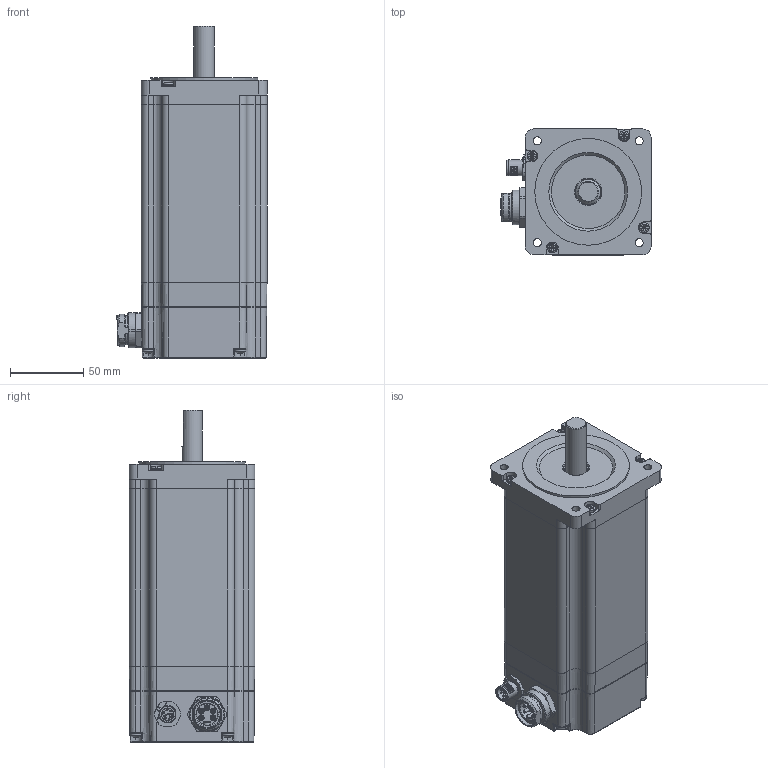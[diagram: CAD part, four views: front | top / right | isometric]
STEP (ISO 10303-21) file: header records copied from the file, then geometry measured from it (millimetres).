
FILE_DESCRIPTION (( 'STEP AP214' ), '1' );
FILE_NAME ('M86SH156B.STEP', '2022-03-24T15:55:16', ( '' ), ( '' ), 'SwSTEP 2.0', 'SolidWorks 2019', '' );
FILE_SCHEMA (( 'AUTOMOTIVE_DESIGN' ));
Length unit declared in the file: millimetre
Products named in the file (13): 1523492; Guarnizione 86SH; Cuscinetto anteriore 86 BAO; Flangia P 86 BAO; Vite M4 impronta a croce terminal box 86SH_a; Vite serrapacco 156 BAO M4x141.25; Cuscinetto posteriore 86 BAO; 7_8connector-1521452; Flangia  86 BAO; M86SH156B; Albero 86SH156 BAO; Terminal box 86 BAO; Statore 86SH156 BAO
Assembly tree (18 placements, depth 2):
  M86SH156B
    Albero 86SH156 BAO
    Flangia  86 BAO
    Cuscinetto anteriore 86 BAO
    Cuscinetto posteriore 86 BAO
    Statore 86SH156 BAO
    Flangia P 86 BAO
    Vite serrapacco 156 BAO M4x141.25  x4
    Guarnizione 86SH
    Terminal box 86 BAO
    Vite M4 impronta a croce terminal box 86SH_a  x4
    7_8connector-1521452
    1523492
Bounding box: 102.58 x 85.9 x 226.95 mm (x, y, z)
Volume: 792567.2 mm3; surface area: 220291.8 mm2
Topology: 31 solids, 31 shells, 2009 faces, 4792 edges, 2934 vertices
Faces by surface type: plane 789, cylinder 494, cone 475, bspline 171, torus 68, sphere 12
Full cylindrical faces by diameter (mm): 0.217 x1, 0.8 x8, 1.09 x8, 2 x5, 2.4 x5, 2.5 x1, 3 x5, 3.3 x12, 3.8 x4, 4 x177, 4.5 x24, 5.5 x4, 5.6 x4, 6.7 x4, 8 x5, 10.7 x1, 10.9 x1, 14 x1, 14.5 x1, 15 x2, 16.62 x1, 17 x2, 17.7 x1, 17.8 x1, 18 x1, 18.5 x2, 19.3 x2, 19.85 x2, 20.137 x2, 20.637 x1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
Entity records: 58458 total; most frequent: CARTESIAN_POINT 17066, DIRECTION 6361, ORIENTED_EDGE 6294, EDGE_CURVE 3147, AXIS2_PLACEMENT_3D 2311, VERTEX_POINT 2213, EDGE_LOOP 2046, LINE 1739
